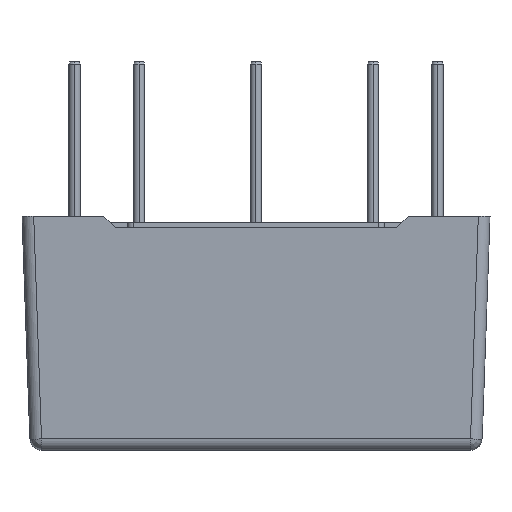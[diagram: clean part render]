
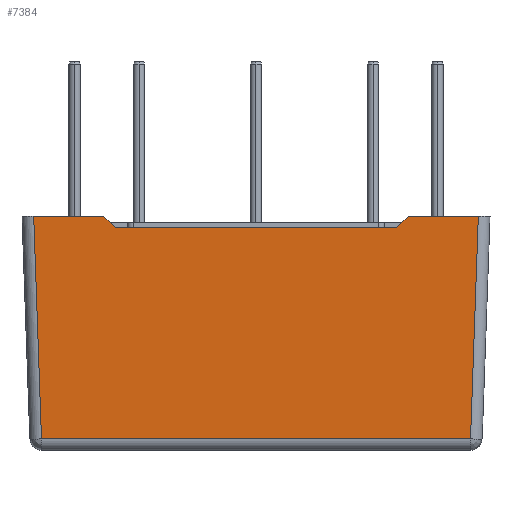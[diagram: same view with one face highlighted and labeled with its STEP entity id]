
A CAD part, left-side view. The second image highlights one B-rep face of the part: STEP entity #7384.
In plain terms, the highlighted planar face has unit normal (-0.999, 0, -0.035).
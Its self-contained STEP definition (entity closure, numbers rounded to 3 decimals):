
#223 = EDGE_CURVE ( 'NONE', #5811, #9806, #1607, .T. ) ;
#533 = VERTEX_POINT ( 'NONE', #2940 ) ;
#616 = VECTOR ( 'NONE', #4050, 1000. ) ;
#773 = CARTESIAN_POINT ( 'NONE',  ( 0., 20., 20. ) ) ;
#830 = CARTESIAN_POINT ( 'NONE',  ( 0., 39.001, 20. ) ) ;
#932 = CARTESIAN_POINT ( 'NONE',  ( 0., 20., 20. ) ) ;
#979 = ORIENTED_EDGE ( 'NONE', *, *, #9177, .F. ) ;
#1020 = ORIENTED_EDGE ( 'NONE', *, *, #2207, .F. ) ;
#1180 = VERTEX_POINT ( 'NONE', #7233 ) ;
#1478 = DIRECTION ( 'NONE',  ( -0.999, 0., -0.035 ) ) ;
#1607 = LINE ( 'NONE', #773, #7581 ) ;
#1651 = VERTEX_POINT ( 'NONE', #4610 ) ;
#1812 = DIRECTION ( 'NONE',  ( 0., -1., 0. ) ) ;
#1836 = LINE ( 'NONE', #7077, #9234 ) ;
#1922 = EDGE_CURVE ( 'NONE', #8302, #1651, #2882, .T. ) ;
#1979 = DIRECTION ( 'NONE',  ( 0.035, -0.035, -0.999 ) ) ;
#2207 = EDGE_CURVE ( 'NONE', #9806, #3510, #1836, .T. ) ;
#2222 = EDGE_CURVE ( 'NONE', #1180, #8302, #7082, .T. ) ;
#2372 = CARTESIAN_POINT ( 'NONE',  ( 0., 7., 20. ) ) ;
#2510 = ORIENTED_EDGE ( 'NONE', *, *, #2222, .T. ) ;
#2515 = VECTOR ( 'NONE', #1979, 1000. ) ;
#2571 = ORIENTED_EDGE ( 'NONE', *, *, #223, .F. ) ;
#2774 = LINE ( 'NONE', #7714, #2515 ) ;
#2882 = LINE ( 'NONE', #6555, #9132 ) ;
#2940 = CARTESIAN_POINT ( 'NONE',  ( 0.035, 7.966, 19. ) ) ;
#2979 = DIRECTION ( 'NONE',  ( 0.025, -0.694, -0.719 ) ) ;
#3081 = PLANE ( 'NONE',  #9048 ) ;
#3101 = CARTESIAN_POINT ( 'NONE',  ( 0., 33., 20. ) ) ;
#3248 = ORIENTED_EDGE ( 'NONE', *, *, #4464, .T. ) ;
#3510 = VERTEX_POINT ( 'NONE', #9047 ) ;
#3573 = LINE ( 'NONE', #4327, #7657 ) ;
#3940 = VECTOR ( 'NONE', #1812, 1000. ) ;
#4050 = DIRECTION ( 'NONE',  ( 0., -1., 0. ) ) ;
#4327 = CARTESIAN_POINT ( 'NONE',  ( 0., 7., 20. ) ) ;
#4464 = EDGE_CURVE ( 'NONE', #10083, #533, #3573, .T. ) ;
#4531 = CARTESIAN_POINT ( 'NONE',  ( 0.665, 1.664, 0.965 ) ) ;
#4610 = CARTESIAN_POINT ( 'NONE',  ( 0., 0.999, 20. ) ) ;
#4896 = DIRECTION ( 'NONE',  ( 0., -1., 0. ) ) ;
#4903 = ORIENTED_EDGE ( 'NONE', *, *, #1922, .T. ) ;
#5174 = DIRECTION ( 'NONE',  ( 0.025, 0.694, -0.719 ) ) ;
#5222 = LINE ( 'NONE', #9768, #616 ) ;
#5579 = FACE_OUTER_BOUND ( 'NONE', #9109, .T. ) ;
#5811 = VERTEX_POINT ( 'NONE', #830 ) ;
#6091 = ORIENTED_EDGE ( 'NONE', *, *, #6652, .T. ) ;
#6101 = LINE ( 'NONE', #932, #3940 ) ;
#6297 = DIRECTION ( 'NONE',  ( 0., -1., 0. ) ) ;
#6358 = CARTESIAN_POINT ( 'NONE',  ( 0.698, 0., 0.012 ) ) ;
#6555 = CARTESIAN_POINT ( 'NONE',  ( 0.665, 1.664, 0.965 ) ) ;
#6652 = EDGE_CURVE ( 'NONE', #5811, #1180, #2774, .T. ) ;
#7077 = CARTESIAN_POINT ( 'NONE',  ( 0., 33., 20. ) ) ;
#7082 = LINE ( 'NONE', #7891, #8994 ) ;
#7183 = DIRECTION ( 'NONE',  ( -0.035, 0., 0.999 ) ) ;
#7233 = CARTESIAN_POINT ( 'NONE',  ( 0.665, 38.336, 0.965 ) ) ;
#7384 = ADVANCED_FACE ( 'NONE', ( #5579 ), #3081, .T. ) ;
#7581 = VECTOR ( 'NONE', #4896, 1000. ) ;
#7657 = VECTOR ( 'NONE', #5174, 1000. ) ;
#7714 = CARTESIAN_POINT ( 'NONE',  ( 0., 39.001, 20. ) ) ;
#7891 = CARTESIAN_POINT ( 'NONE',  ( 0.665, 0., 0.965 ) ) ;
#8183 = DIRECTION ( 'NONE',  ( -0.035, -0.035, 0.999 ) ) ;
#8252 = ORIENTED_EDGE ( 'NONE', *, *, #8699, .F. ) ;
#8302 = VERTEX_POINT ( 'NONE', #4531 ) ;
#8699 = EDGE_CURVE ( 'NONE', #10083, #1651, #6101, .T. ) ;
#8994 = VECTOR ( 'NONE', #6297, 1000. ) ;
#9047 = CARTESIAN_POINT ( 'NONE',  ( 0.035, 32.034, 19. ) ) ;
#9048 = AXIS2_PLACEMENT_3D ( 'NONE', #6358, #1478, #7183 ) ;
#9109 = EDGE_LOOP ( 'NONE', ( #4903, #8252, #3248, #979, #1020, #2571, #6091, #2510 ) ) ;
#9132 = VECTOR ( 'NONE', #8183, 1000. ) ;
#9177 = EDGE_CURVE ( 'NONE', #3510, #533, #5222, .T. ) ;
#9234 = VECTOR ( 'NONE', #2979, 1000. ) ;
#9768 = CARTESIAN_POINT ( 'NONE',  ( 0.035, 20., 19. ) ) ;
#9806 = VERTEX_POINT ( 'NONE', #3101 ) ;
#10083 = VERTEX_POINT ( 'NONE', #2372 ) ;
